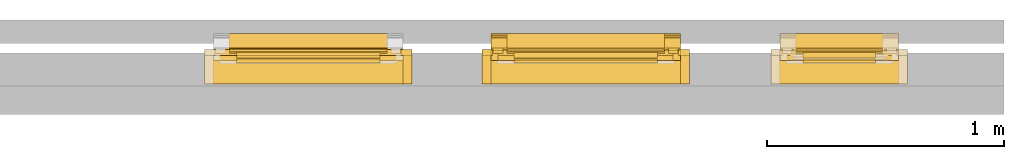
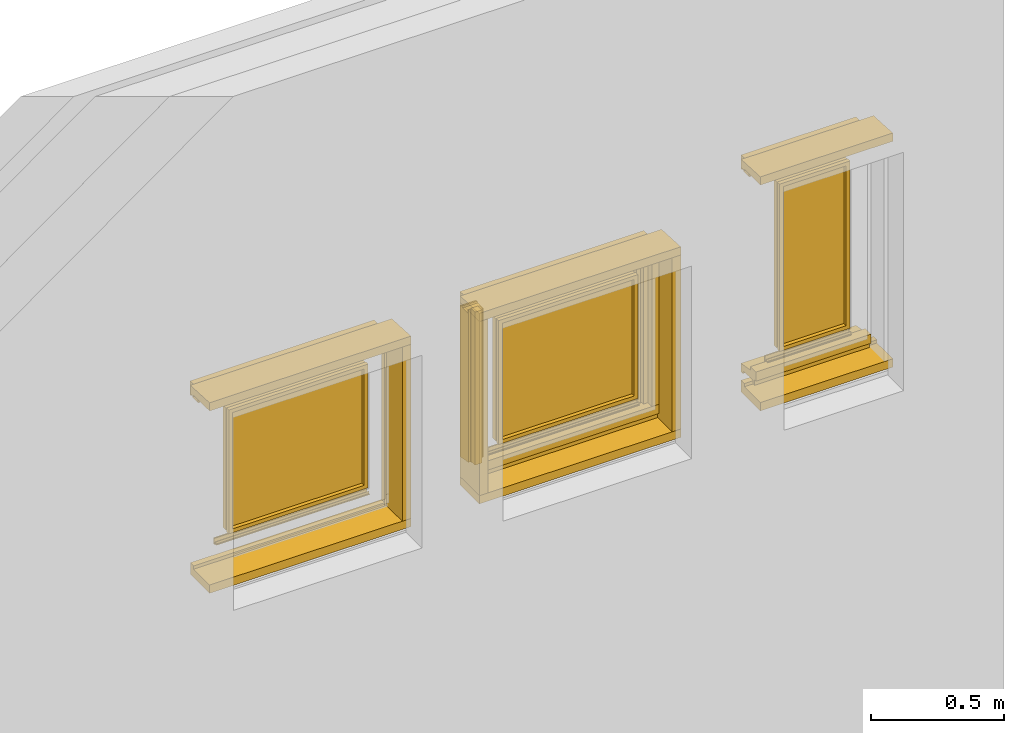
# One storey, part 3 of 4: 25 windows.
"""IFC2X3 building model written with IfcOpenShell, lengths in millimetres."""

from ifc_helpers import new_model, entity, si_unit, converted_unit, derived_unit, direction, frame, frame_2d, origin, place, context, subcontext, project, spatial, polyline, rectangle, outline, extrude, faceted_brep, source, transform, mapped, material, type_object, type_shapes, element, save


model = new_model("IFC2X3")

# Units and contexts
model_context = context("Model", 3, precision=0.01, world=origin(), true_north=direction((6.12303176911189e-17, 1.0)))
body_context = subcontext(model_context, "Body", "Model", "MODEL_VIEW")
ifc_project = project(units=[si_unit("LENGTHUNIT", "METRE", prefix="MILLI"), si_unit("AREAUNIT", "SQUARE_METRE"), si_unit("VOLUMEUNIT", "CUBIC_METRE"), converted_unit("PLANEANGLEUNIT", "DEGREE", entity("IfcRatioMeasure", 0.0174532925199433), si_unit("PLANEANGLEUNIT", "RADIAN"), dimensions=[0, 0, 0, 0, 0, 0, 0]), si_unit("MASSUNIT", "GRAM", prefix="KILO"), derived_unit("MASSDENSITYUNIT", [(si_unit("MASSUNIT", "GRAM", prefix="KILO"), 1), (si_unit("LENGTHUNIT", "METRE"), -3)]), si_unit("TIMEUNIT", "SECOND"), si_unit("FREQUENCYUNIT", "HERTZ"), si_unit("THERMODYNAMICTEMPERATUREUNIT", "DEGREE_CELSIUS"), derived_unit("THERMALTRANSMITTANCEUNIT", [(si_unit("MASSUNIT", "GRAM", prefix="KILO"), 1), (si_unit("THERMODYNAMICTEMPERATUREUNIT", "KELVIN"), -1), (si_unit("TIMEUNIT", "SECOND"), -3)]), derived_unit("VOLUMETRICFLOWRATEUNIT", [(si_unit("LENGTHUNIT", "METRE"), 3), (si_unit("TIMEUNIT", "SECOND"), -1)]), si_unit("ELECTRICCURRENTUNIT", "AMPERE"), si_unit("ELECTRICVOLTAGEUNIT", "VOLT"), si_unit("POWERUNIT", "WATT"), si_unit("FORCEUNIT", "NEWTON", prefix="KILO"), si_unit("ILLUMINANCEUNIT", "LUX"), si_unit("LUMINOUSFLUXUNIT", "LUMEN"), si_unit("LUMINOUSINTENSITYUNIT", "CANDELA"), derived_unit("USERDEFINED", [(si_unit("MASSUNIT", "GRAM", prefix="KILO"), -1), (si_unit("LENGTHUNIT", "METRE"), -2), (si_unit("TIMEUNIT", "SECOND"), 3), (si_unit("LUMINOUSFLUXUNIT", "LUMEN"), 1)]), derived_unit("LINEARVELOCITYUNIT", [(si_unit("LENGTHUNIT", "METRE"), 1), (si_unit("TIMEUNIT", "SECOND"), -1)]), si_unit("PRESSUREUNIT", "PASCAL"), derived_unit("USERDEFINED", [(si_unit("LENGTHUNIT", "METRE"), -2), (si_unit("MASSUNIT", "GRAM", prefix="KILO"), 1), (si_unit("TIMEUNIT", "SECOND"), -2)])], contexts=[model_context])

# Site, building, storey
site_placement = place(None, origin())
site = spatial("IfcSite", under=ifc_project, at=site_placement, Name="Default", CompositionType="ELEMENT")
building_placement = place(site_placement, origin())
building = spatial("IfcBuilding", under=site, at=building_placement, CompositionType="ELEMENT")
storey_placement = place(building_placement, origin())
storey = spatial("IfcBuildingStorey", under=building, at=storey_placement, Name="Level 1", CompositionType="ELEMENT", Elevation=0.0)

# Windows
ifc_material_1 = material(Name="NLRS_i3_meranti_geschilderd_RAL7006")
window_style_1 = type_object("IfcWindowStyle", Name="bis-67x114", ConstructionType="NOTDEFINED", OperationType="NOTDEFINED", ParameterTakesPrecedence=False, Sizeable=False, material=ifc_material_1)
shared_shape_1 = source(origin(), body_context, "Body", "SweptSolid", [
    extrude(outline(polyline([(-13.0250000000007, -65.275), (25.2750000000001, -65.275), (25.2750000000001, -50.2750000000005), (10.2750000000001, -44.9749999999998), (10.2750000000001, 18.725), (25.2750000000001, 18.725), (25.2750000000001, 38.725), (0.275000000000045, 38.725), (0.275000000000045, 48.725), (-41.725, 48.725), (-41.7249999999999, 6.72500000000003), (-25.7249999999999, 6.72500000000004), (-13.0250000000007, -65.275)])), frame((-400.0, 65.275, 25.2750000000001), z_axis=(1.0, 0.0, 0.0), x_axis=(0.0, 0.0, -1.0)), (0.0, 0.0, 1.0), 800.0),
])
type_shapes(window_style_1, [shared_shape_1])
window_1_placement = place(storey_placement, frame((1720.90306251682, 5914.39645578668, 1685.12752334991), z_axis=(0.0, 0.0, 1.0), x_axis=(-1.0, 0.0, 0.0)))
element("IfcWindow", 1, at=window_1_placement, inside=storey, type_object=window_style_1, material=ifc_material_1, Name="NLRS_30_WIN_onderdorpel_sh_gen_TOBA-JM:bis-67x114", ObjectType="NLRS_30_WIN_onderdorpel_sh_gen_TOBA-JM:bis-67x114", OverallHeight=67.0, OverallWidth=800.0, context=body_context, shape_type="MappedRepresentation", body=[
    mapped(shared_shape_1, transform((0.0, 0.0, 0.0), scale=1.0)),
])
window_style_2 = type_object("IfcWindowStyle", Name="dv-bis67x114", ConstructionType="NOTDEFINED", OperationType="NOTDEFINED", ParameterTakesPrecedence=False, Sizeable=False, material=ifc_material_1)
shared_shape_2 = source(origin(), body_context, "Body", "Brep", [
    faceted_brep([(50.0, 84.0, 750.0), (50.0, 62.0, 750.0), (50.0, 62.0, 733.0), (50.0, 62.0, 49.2361111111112), (50.0, 72.0, 51.0), (50.0, 72.0, 67.0), (50.0, 84.0, 67.0), (67.0, 62.0, 733.0), (67.0, 62.0, 49.2361111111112), (67.0, 20.0, 733.0), (67.0, 17.0, 739.0), (67.0, 10.0, 739.0), (67.0, 7.0, 733.0), (67.0, 0.0, 733.0), (67.0, 0.0, 38.3000000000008), (0.0, 0.0, 733.0), (0.0, 0.0, 38.3000000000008), (0.0, 62.0, 750.0), (0.0, 65.0, 750.0), (0.0, 65.0, 49.7652777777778), (0.0, 7.0, 733.0), (0.0, 10.0, 739.0), (0.0, 17.0, 739.0), (0.0, 20.0, 733.0), (0.0, 62.0, 733.0), (9.0, 65.0, 750.0), (9.0, 65.0, 49.7652777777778), (9.0, 84.0, 750.0), (9.0, 84.0, 67.0), (9.0, 72.0, 67.0), (9.0, 72.0, 51.0), (30.0, 84.0, 750.0), (30.0, 84.0, 770.0), (0.0, 84.0, 770.0), (0.0, 84.0, 67.0), (0.0, 114.0, 770.0), (0.0, 114.0, 67.0), (30.0, 114.0, 770.0), (30.0, 114.0, 67.0), (30.0, 84.0, 67.0)], [[[0, 1, 2, 3, 4, 5, 6]], [[2, 7, 8, 3]], [[7, 9, 10, 11, 12, 13, 14, 8]], [[13, 15, 16, 14]], [[17, 18, 19, 16, 15, 20, 21, 22, 23, 24]], [[18, 25, 26, 19]], [[25, 27, 28, 29, 30, 26]], [[27, 31, 32, 33, 34, 28]], [[33, 35, 36, 34]], [[35, 37, 38, 36]], [[30, 4, 3, 8, 14, 16, 19, 26]], [[4, 30, 29, 5]], [[5, 29, 28, 34, 36, 38, 39, 6]], [[31, 0, 6, 39]], [[37, 32, 31, 39, 38]], [[35, 33, 32, 37]], [[17, 1, 0, 31, 27, 25, 18]], [[1, 17, 24, 2]], [[23, 9, 7, 2, 24]], [[9, 23, 22, 10]], [[10, 22, 21, 11]], [[11, 21, 20, 12]], [[12, 20, 15, 13]]]),
])
type_shapes(window_style_2, [shared_shape_2])
window_2_placement = place(storey_placement, frame((2120.90306251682, 5914.39645578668, 1685.12752334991), z_axis=(0.0, 0.0, 1.0), x_axis=(-1.0, 0.0, 0.0)))
element("IfcWindow", 2, at=window_2_placement, inside=storey, type_object=window_style_2, material=ifc_material_1, Name="NLRS_30_WIN_zijstijl_sh_gen_TOBA-JM:dv-bis67x114", ObjectType="NLRS_30_WIN_zijstijl_sh_gen_TOBA-JM:dv-bis67x114", OverallHeight=761.699999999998, OverallWidth=67.0000000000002, context=body_context, shape_type="MappedRepresentation", body=[
    mapped(shared_shape_2, transform((0.0, 0.0, 0.0), scale=1.0)),
])
window_style_3 = type_object("IfcWindowStyle", Name="dv-bis67x114", ConstructionType="NOTDEFINED", OperationType="NOTDEFINED", ParameterTakesPrecedence=False, Sizeable=False, material=ifc_material_1)
shared_shape_3 = source(origin(), body_context, "Body", "Brep", [
    faceted_brep([(50.0, -84.0, 750.0), (50.0, -84.0, 67.0), (50.0, -72.0, 67.0), (50.0, -72.0, 51.0), (50.0, -62.0, 49.2361111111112), (50.0, -62.0, 733.0), (50.0, -62.0, 750.0), (67.0, -62.0, 49.2361111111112), (67.0, -62.0, 733.0), (67.0, 0.0, 38.3000000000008), (67.0, 0.0, 733.0), (67.0, -7.0, 733.0), (67.0, -10.0, 739.0), (67.0, -17.0, 739.0), (67.0, -20.0, 733.0), (0.0, 0.0, 38.3000000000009), (0.0, 0.0, 733.0), (0.0, -62.0, 750.0), (0.0, -62.0, 733.0), (0.0, -20.0, 733.0), (0.0, -17.0, 739.0), (0.0, -10.0, 739.0), (0.0, -7.0, 733.0), (0.0, -65.0, 49.7652777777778), (0.0, -65.0, 750.0), (9.0, -65.0, 49.7652777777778), (9.0, -65.0, 750.0), (9.0, -72.0, 51.0), (9.0, -72.0, 67.0), (9.0, -84.0, 67.0), (9.0, -84.0, 750.0), (0.0, -84.0, 67.0), (0.0, -84.0, 770.0), (30.0, -84.0, 770.0), (30.0, -84.0, 750.0), (0.0, -114.0, 67.0), (0.0, -114.0, 770.0), (30.0, -114.0, 67.0), (30.0, -114.0, 770.0), (30.0, -84.0, 67.0)], [[[0, 1, 2, 3, 4, 5, 6]], [[5, 4, 7, 8]], [[8, 7, 9, 10, 11, 12, 13, 14]], [[10, 9, 15, 16]], [[17, 18, 19, 20, 21, 22, 16, 15, 23, 24]], [[24, 23, 25, 26]], [[26, 25, 27, 28, 29, 30]], [[30, 29, 31, 32, 33, 34]], [[32, 31, 35, 36]], [[36, 35, 37, 38]], [[27, 25, 23, 15, 9, 7, 4, 3]], [[3, 2, 28, 27]], [[2, 1, 39, 37, 35, 31, 29, 28]], [[34, 39, 1, 0]], [[38, 37, 39, 34, 33]], [[36, 38, 33, 32]], [[17, 24, 26, 30, 34, 0, 6]], [[6, 5, 18, 17]], [[19, 18, 5, 8, 14]], [[14, 13, 20, 19]], [[13, 12, 21, 20]], [[12, 11, 22, 21]], [[11, 10, 16, 22]]]),
])
type_shapes(window_style_3, [shared_shape_3])
window_3_placement = place(storey_placement, frame((1320.90306251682, 5914.39645578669, 1685.1275233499)))
element("IfcWindow", 3, at=window_3_placement, inside=storey, type_object=window_style_3, material=ifc_material_1, Name="NLRS_30_WIN_zijstijl_sh_gen_TOBA-JM:dv-bis67x114", ObjectType="NLRS_30_WIN_zijstijl_sh_gen_TOBA-JM:dv-bis67x114", OverallHeight=761.699999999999, OverallWidth=67.0000000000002, context=body_context, shape_type="MappedRepresentation", body=[
    mapped(shared_shape_3, transform((0.0, 0.0, 0.0), scale=1.0)),
])
ifc_material_2 = material(Name="NLRS_i3_hout_vuren_generiek")
window_style_4 = type_object("IfcWindowStyle", Name="53x145", ConstructionType="NOTDEFINED", OperationType="NOTDEFINED", ParameterTakesPrecedence=False, Sizeable=False, material=ifc_material_2)
shared_shape_4 = source(origin(), body_context, "Body", "SweptSolid", [
    extrude(outline(polyline([(7.66666666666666, 31.6666666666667), (22.6666666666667, 31.6666666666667), (22.6666666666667, 56.6666666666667), (-30.3333333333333, 56.6666666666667), (-30.3333333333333, -88.3333333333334), (7.66666666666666, -88.3333333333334), (7.66666666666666, 31.6666666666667)])), frame((-438.0, 56.6666666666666, -7.66666666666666), z_axis=(1.0, 0.0, 0.0), x_axis=(0.0, 0.0, 1.0)), (0.0, 0.0, 1.0), 875.99999999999),
])
type_shapes(window_style_4, [shared_shape_4])
for number, where, z_axis, x_axis, name in (
    (4, (547.832854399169, 5846.39645578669, 1685.12752334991), (0.0, 0.0, 1.0), (-1.0, 0.0, 0.0), "NLRS_30_WIN_spouwlat-onderdorpel_sh_gen_TOBA-JM:53x145"),
    (5, (1720.90306251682, 5846.39645578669, 1685.12752334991), (0.0, 0.0, 1.0), (-1.0, 0.0, 0.0), "NLRS_30_WIN_spouwlat-onderdorpel_sh_gen_TOBA-JM:53x145"),
):
    element("IfcWindow", number, at=place(storey_placement, frame(where, z_axis=z_axis, x_axis=x_axis)), inside=storey, type_object=window_style_4, material=ifc_material_2, Name=name, ObjectType="NLRS_30_WIN_spouwlat-onderdorpel_sh_gen_TOBA-JM:53x145", OverallHeight=53.0, OverallWidth=875.99999999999, context=body_context, shape_type="MappedRepresentation", body=[
        mapped(shared_shape_4, transform((0.0, 0.0, 0.0), scale=1.0)),
    ])
window_style_5 = type_object("IfcWindowStyle", Name="ok-bk-recht-45x145", ConstructionType="NOTDEFINED", OperationType="NOTDEFINED", ParameterTakesPrecedence=False, Sizeable=False, material=ifc_material_2)
shared_shape_5 = source(origin(), body_context, "Body", "SweptSolid", [
    extrude(outline(polyline([(-27.6666666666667, -88.3333333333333), (10.3333333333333, -88.3333333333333), (10.3333333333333, 31.6666666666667), (17.3333333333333, 31.6666666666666), (17.3333333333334, 56.6666666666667), (-27.6666666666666, 56.6666666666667), (-27.6666666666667, -88.3333333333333)])), frame((-10.3333333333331, -56.6666666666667, 0.0)), (0.0, 0.0, 1.0), 800.000000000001),
])
type_shapes(window_style_5, [shared_shape_5])
window_4_placement = place(storey_placement, frame((1320.90306251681, 5846.3964557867, 1685.1275233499)))
element("IfcWindow", 6, at=window_4_placement, inside=storey, type_object=window_style_5, material=ifc_material_2, Name="NLRS_30_WIN_spouwlat-zijstijll_sh_gen_TOBA-JM:ok-bk-recht-45x145", ObjectType="NLRS_30_WIN_spouwlat-zijstijll_sh_gen_TOBA-JM:ok-bk-recht-45x145", OverallHeight=800.000000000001, OverallWidth=105.0, context=body_context, shape_type="MappedRepresentation", body=[
    mapped(shared_shape_5, transform((0.0, 0.0, 0.0), scale=1.0)),
])
window_style_6 = type_object("IfcWindowStyle", Name="dv-bis-67x114", ConstructionType="NOTDEFINED", OperationType="NOTDEFINED", ParameterTakesPrecedence=False, Sizeable=False, material=ifc_material_1)
shared_shape_6 = source(origin(), body_context, "Body", "SweptSolid", [
    extrude(outline(polyline([(28.4727330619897, -12.0), (35.4727330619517, -12.0), (31.9090040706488, 56.0), (-31.5272669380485, 56.0), (-31.5272669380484, 49.0), (-25.5272669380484, 46.0), (-25.5272669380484, 39.0), (-31.5272669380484, 36.0), (-31.5272669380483, -6.0), (-14.5272669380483, -6.0), (-14.5272669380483, -28.0), (5.47273306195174, -28.0), (5.47273306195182, -58.0), (35.4727330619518, -58.0), (35.4727330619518, -37.0), (28.4727330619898, -37.0), (28.4727330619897, -12.0)])), frame((-400.0, 56.0, -35.4727330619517), z_axis=(1.0, 0.0, 0.0), x_axis=(0.0, 0.0, 1.0)), (0.0, 0.0, 1.0), 800.0),
])
type_shapes(window_style_6, [shared_shape_6])
for number, where, z_axis, x_axis in (
    (7, (547.832854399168, 5914.39645578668, 2485.1275233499), (0.0, 0.0, 1.0), (-1.0, 0.0, 0.0)),
    (8, (1720.90306251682, 5914.39645578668, 2485.1275233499), (0.0, 0.0, 1.0), (-1.0, 0.0, 0.0)),
):
    element("IfcWindow", number, at=place(storey_placement, frame(where, z_axis=z_axis, x_axis=x_axis)), inside=storey, type_object=window_style_6, material=ifc_material_1, Name="NLRS_30_WIN_bovendorpel_sh_gen_TOBA-JM:dv-bis-67x114", ObjectType="NLRS_30_WIN_bovendorpel_sh_gen_TOBA-JM:dv-bis-67x114", OverallHeight=67.0, OverallWidth=800.0, context=body_context, shape_type="MappedRepresentation", body=[
        mapped(shared_shape_6, transform((0.0, 0.0, 0.0), scale=1.0)),
    ])
window_style_7 = type_object("IfcWindowStyle", Name="ok-bk-recht-45x145", ConstructionType="NOTDEFINED", OperationType="NOTDEFINED", ParameterTakesPrecedence=False, Sizeable=False, material=ifc_material_2)
shared_shape_7 = source(origin(), body_context, "Body", "SweptSolid", [
    extrude(outline(polyline([(-88.3333333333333, -27.6666666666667), (56.6666666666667, -27.6666666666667), (56.6666666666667, 17.3333333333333), (31.6666666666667, 17.3333333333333), (31.6666666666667, 10.3333333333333), (-88.3333333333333, 10.3333333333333), (-88.3333333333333, -27.6666666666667)])), frame((-10.3333333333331, 56.6666666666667, 0.0), z_axis=(0.0, 0.0, 1.0), x_axis=(0.0, -1.0, 0.0)), (0.0, 0.0, 1.0), 799.999999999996),
])
type_shapes(window_style_7, [shared_shape_7])
for number, where, z_axis, x_axis in (
    (9, (947.832854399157, 5846.39645578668, 1685.12752334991), (0.0, 0.0, 1.0), (-1.0, 0.0, 0.0)),
    (10, (2120.90306251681, 5846.39645578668, 1685.12752334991), (0.0, 0.0, 1.0), (-1.0, 0.0, 0.0)),
):
    element("IfcWindow", number, at=place(storey_placement, frame(where, z_axis=z_axis, x_axis=x_axis)), inside=storey, type_object=window_style_7, material=ifc_material_2, Name="NLRS_30_WIN_spouwlat-zijstijll_sh_gen_TOBA-JM:ok-bk-recht-45x145", ObjectType="NLRS_30_WIN_spouwlat-zijstijll_sh_gen_TOBA-JM:ok-bk-recht-45x145", OverallHeight=799.999999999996, OverallWidth=105.0, context=body_context, shape_type="MappedRepresentation", body=[
        mapped(shared_shape_7, transform((0.0, 0.0, 0.0), scale=1.0)),
    ])
ifc_material_3 = material(Name="NLRS_i3_meranti_draaiende_delen_geschilderd_creme_RAL7006")
window_style_8 = type_object("IfcWindowStyle", Name="17x17", ConstructionType="NOTDEFINED", OperationType="NOTDEFINED", ParameterTakesPrecedence=False, Sizeable=False, material=ifc_material_3)
shared_shape_8 = source(origin(), body_context, "Body", "SweptSolid", [
    extrude(outline(polyline([(-284.500000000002, -303.0), (284.500000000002, -303.0), (284.500000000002, 303.0), (-284.500000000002, 303.0), (-284.500000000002, -303.0)]), holes=[polyline([(267.500000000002, -286.0), (-267.500000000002, -286.0), (-267.500000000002, 286.0), (267.500000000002, 286.0), (267.500000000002, -286.0)])]), frame((0.0, 45.0, 351.500000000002), z_axis=(0.0, 1.0, 0.0), x_axis=(0.0, 0.0, -1.0)), (0.0, 0.0, 1.0), 17.0),
])
type_shapes(window_style_8, [shared_shape_8])
for number, where, z_axis, x_axis, name in (
    (11, (547.832854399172, 5852.39645578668, 1752.1275233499), (0.0, 0.0, 1.0), (-1.0, 0.0, 0.0), "NLRS_30_WIN_glaslat-raam_sh_gen_TOBA-JM:17x17"),
    (12, (1720.90306251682, 5852.39645578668, 1752.1275233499), (0.0, 0.0, 1.0), (-1.0, 0.0, 0.0), "NLRS_30_WIN_glaslat-raam_sh_gen_TOBA-JM:17x17"),
):
    element("IfcWindow", number, at=place(storey_placement, frame(where, z_axis=z_axis, x_axis=x_axis)), inside=storey, type_object=window_style_8, material=ifc_material_3, Name=name, ObjectType="NLRS_30_WIN_glaslat-raam_sh_gen_TOBA-JM:17x17", OverallHeight=665.999999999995, OverallWidth=666.000000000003, context=body_context, shape_type="MappedRepresentation", body=[
        mapped(shared_shape_8, transform((0.0, 0.0, 0.0), scale=1.0)),
    ])
ifc_material_4 = material(Name="NLRS_h4_aluminum_geanodizeerd_RAL7006")
window_style_9 = type_object("IfcWindowStyle", Name="aanslagprofiel", ConstructionType="NOTDEFINED", OperationType="NOTDEFINED", ParameterTakesPrecedence=False, Sizeable=False, material=ifc_material_4)
shared_shape_9 = source(origin(), body_context, "Body", "SweptSolid", [
    extrude(outline(polyline([(-7.23833465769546, -13.3571428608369), (-5.23833465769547, -13.3571428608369), (-5.23833465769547, -9.35714286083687), (-0.765924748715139, -9.35714286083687), (-0.765924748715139, -12.8571428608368), (2.73407525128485, -12.8571428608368), (2.73407525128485, -11.3571428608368), (0.734075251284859, -11.3571428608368), (0.734075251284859, -6.85714286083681), (2.73407525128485, -6.85714286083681), (2.73407525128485, -7.85714286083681), (3.73407525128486, -7.85714286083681), (3.73407525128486, -6.85714286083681), (15.2340752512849, -6.85714286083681), (15.2340752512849, -4.85714286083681), (9.63407525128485, -4.85714286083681), (9.63407525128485, 5.14285713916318), (7.63407525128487, 5.14285713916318), (7.63407525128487, -4.85714286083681), (-0.765924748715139, -4.85714286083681), (-0.765924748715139, -7.85714286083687), (-5.2383346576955, -7.85714286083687), (-5.23833465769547, 11.0), (-3.73833465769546, 11.0), (-3.73833465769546, 13.0), (-4.73833465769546, 13.0), (-4.73833465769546, 12.1428571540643), (-6.23833465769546, 12.5714286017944), (-6.23833465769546, 14.5714286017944), (-4.73833465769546, 15.0), (-4.73833465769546, 14.1428571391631), (-3.73833465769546, 14.1428571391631), (-3.73833465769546, 16.1428571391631), (-7.23833465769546, 15.1428571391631), (-7.23833465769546, -13.3571428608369)])), frame((-333.0, 7.23833465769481, 7.85714286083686), z_axis=(1.0, 0.0, 0.0), x_axis=(0.0, 1.0, 0.0)), (0.0, 0.0, 1.0), 666.000000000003),
])
type_shapes(window_style_9, [shared_shape_9])
for number, where, z_axis, x_axis, name in (
    (13, (547.832854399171, 5852.39645578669, 1752.1275233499), (0.0, 0.0, 1.0), (-1.0, 0.0, 0.0), "NLRS_30_WIN_aanslagprofiel_sh_gen_TOBA-JM:aanslagprofiel"),
    (14, (1720.90306251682, 5852.39645578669, 1752.12752334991), (0.0, 0.0, 1.0), (-1.0, 0.0, 0.0), "NLRS_30_WIN_aanslagprofiel_sh_gen_TOBA-JM:aanslagprofiel"),
):
    element("IfcWindow", number, at=place(storey_placement, frame(where, z_axis=z_axis, x_axis=x_axis)), inside=storey, type_object=window_style_9, material=ifc_material_4, Name=name, ObjectType="NLRS_30_WIN_aanslagprofiel_sh_gen_TOBA-JM:aanslagprofiel", OverallHeight=671.499999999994, OverallWidth=666.000000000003, context=body_context, shape_type="MappedRepresentation", body=[
        mapped(shared_shape_9, transform((0.0, 0.0, 0.0), scale=1.0)),
    ])
ifc_material_5 = material(Name="NLRS_o2_glas_mat")
window_style_10 = type_object("IfcWindowStyle", Name="isolerend-raam", ConstructionType="NOTDEFINED", OperationType="NOTDEFINED", ParameterTakesPrecedence=False, Sizeable=False, material=ifc_material_5)
shared_shape_10 = source(origin(), body_context, "Body", "SweptSolid", [
    extrude(rectangle(XDim=23.0, YDim=606.000000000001, at=frame_2d((1.77635683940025e-15, 0.0), x_axis=(1.0, 0.0))), frame((0.0, 29.4999999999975, 71.0), z_axis=(0.0, 0.0, 1.0), x_axis=(0.0, -1.0, 0.0)), (0.0, 0.0, 1.0), 561.000000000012),
])
type_shapes(window_style_10, [shared_shape_10])
for number, where, z_axis, x_axis, name in (
    (15, (547.832854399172, 5852.39645578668, 1752.1275233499), (0.0, 0.0, 1.0), (-1.0, 0.0, 0.0), "NLRS_30_WIN_glas-isolerend-raam_sh_gen_TOBA-JM:isolerend-raam"),
    (16, (1720.90306251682, 5852.39645578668, 1752.1275233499), (0.0, 0.0, 1.0), (-1.0, 0.0, 0.0), "NLRS_30_WIN_glas-isolerend-raam_sh_gen_TOBA-JM:isolerend-raam"),
):
    element("IfcWindow", number, at=place(storey_placement, frame(where, z_axis=z_axis, x_axis=x_axis)), inside=storey, type_object=window_style_10, material=ifc_material_5, Name=name, ObjectType="NLRS_30_WIN_glas-isolerend-raam_sh_gen_TOBA-JM:isolerend-raam", OverallHeight=665.999999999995, OverallWidth=666.000000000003, context=body_context, shape_type="MappedRepresentation", body=[
        mapped(shared_shape_10, transform((0.0, 0.0, 0.0), scale=1.0)),
    ])
window_style_11 = type_object("IfcWindowStyle", Name="43x145", ConstructionType="NOTDEFINED", OperationType="NOTDEFINED", ParameterTakesPrecedence=False, Sizeable=False, material=ifc_material_2)
shared_shape_11 = source(origin(), body_context, "Body", "SweptSolid", [
    extrude(outline(polyline([(-9.00212609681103, -88.3333333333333), (28.8038161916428, -88.3333333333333), (21.2046881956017, 56.6666666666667), (-16.0021260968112, 56.6666666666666), (-16.0021260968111, 31.6666666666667), (-9.00212609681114, 31.6666666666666), (-9.00212609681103, -88.3333333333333)])), frame((-438.0, 56.6666666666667, 9.00212609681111), z_axis=(1.0, 0.0, 0.0), x_axis=(0.0, 0.0, 1.0)), (0.0, 0.0, 1.0), 875.999999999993),
])
type_shapes(window_style_11, [shared_shape_11])
for number, where, z_axis, x_axis, name in (
    (17, (547.832854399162, 5846.39645578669, 2485.1275233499), (0.0, 0.0, 1.0), (-1.0, 0.0, 0.0), "NLRS_30_WIN_spouwlat_bovendorpel-zonder-bovenrek_sh_gen_TOBA-JM:43x145"),
    (18, (1720.90306251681, 5846.39645578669, 2485.1275233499), (0.0, 0.0, 1.0), (-1.0, 0.0, 0.0), "NLRS_30_WIN_spouwlat_bovendorpel-zonder-bovenrek_sh_gen_TOBA-JM:43x145"),
):
    element("IfcWindow", number, at=place(storey_placement, frame(where, z_axis=z_axis, x_axis=x_axis)), inside=storey, type_object=window_style_11, material=ifc_material_2, Name=name, ObjectType="NLRS_30_WIN_spouwlat_bovendorpel-zonder-bovenrek_sh_gen_TOBA-JM:43x145", OverallHeight=44.8059422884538, OverallWidth=875.999999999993, context=body_context, shape_type="MappedRepresentation", body=[
        mapped(shared_shape_11, transform((0.0, 0.0, 0.0), scale=1.0)),
    ])
window_style_12 = type_object("IfcWindowStyle", Name="bis-67x114", ConstructionType="NOTDEFINED", OperationType="NOTDEFINED", ParameterTakesPrecedence=False, Sizeable=False, material=ifc_material_1)
shared_shape_12 = source(origin(), body_context, "Body", "SweptSolid", [
    extrude(outline(polyline([(-13.0250000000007, -65.275), (25.2750000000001, -65.275), (25.2750000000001, -50.2750000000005), (10.2750000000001, -44.9749999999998), (10.2750000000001, 18.725), (25.2750000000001, 18.725), (25.2750000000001, 38.725), (0.275000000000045, 38.725), (0.275000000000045, 48.725), (-41.725, 48.725), (-41.7249999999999, 6.72500000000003), (-25.7249999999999, 6.72500000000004), (-13.0250000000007, -65.275)])), frame((-250.0, 65.275, 25.2750000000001), z_axis=(1.0, 0.0, 0.0), x_axis=(0.0, 0.0, -1.0)), (0.0, 0.0, 1.0), 499.999999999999),
])
type_shapes(window_style_12, [shared_shape_12])
window_5_placement = place(storey_placement, frame((2792.97327063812, 5914.39645578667, 1685.12752334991), z_axis=(0.0, 0.0, 1.0), x_axis=(-1.0, 0.0, 0.0)))
element("IfcWindow", 19, at=window_5_placement, inside=storey, type_object=window_style_12, material=ifc_material_1, Name="NLRS_30_WIN_onderdorpel_sh_gen_TOBA-JM:bis-67x114", ObjectType="NLRS_30_WIN_onderdorpel_sh_gen_TOBA-JM:bis-67x114", OverallHeight=67.0, OverallWidth=499.999999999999, context=body_context, shape_type="MappedRepresentation", body=[
    mapped(shared_shape_12, transform((0.0, 0.0, 0.0), scale=1.0)),
])
window_style_13 = type_object("IfcWindowStyle", Name="53x145", ConstructionType="NOTDEFINED", OperationType="NOTDEFINED", ParameterTakesPrecedence=False, Sizeable=False, material=ifc_material_2)
shared_shape_13 = source(origin(), body_context, "Body", "SweptSolid", [
    extrude(outline(polyline([(7.66666666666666, 31.6666666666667), (22.6666666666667, 31.6666666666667), (22.6666666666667, 56.6666666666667), (-30.3333333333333, 56.6666666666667), (-30.3333333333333, -88.3333333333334), (7.66666666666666, -88.3333333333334), (7.66666666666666, 31.6666666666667)])), frame((-288.0, 56.6666666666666, -7.66666666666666), z_axis=(1.0, 0.0, 0.0), x_axis=(0.0, 0.0, 1.0)), (0.0, 0.0, 1.0), 575.99999999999),
])
type_shapes(window_style_13, [shared_shape_13])
window_6_placement = place(storey_placement, frame((2792.97327063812, 5846.39645578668, 1685.12752334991), z_axis=(0.0, 0.0, 1.0), x_axis=(-1.0, 0.0, 0.0)))
element("IfcWindow", 20, at=window_6_placement, inside=storey, type_object=window_style_13, material=ifc_material_2, Name="NLRS_30_WIN_spouwlat-onderdorpel_sh_gen_TOBA-JM:53x145", ObjectType="NLRS_30_WIN_spouwlat-onderdorpel_sh_gen_TOBA-JM:53x145", OverallHeight=53.0, OverallWidth=575.99999999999, context=body_context, shape_type="MappedRepresentation", body=[
    mapped(shared_shape_13, transform((0.0, 0.0, 0.0), scale=1.0)),
])
window_style_14 = type_object("IfcWindowStyle", Name="dv-bis-67x114", ConstructionType="NOTDEFINED", OperationType="NOTDEFINED", ParameterTakesPrecedence=False, Sizeable=False, material=ifc_material_1)
shared_shape_14 = source(origin(), body_context, "Body", "SweptSolid", [
    extrude(outline(polyline([(28.4727330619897, -12.0), (35.4727330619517, -12.0), (31.9090040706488, 56.0), (-31.5272669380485, 56.0), (-31.5272669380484, 49.0), (-25.5272669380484, 46.0), (-25.5272669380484, 39.0), (-31.5272669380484, 36.0), (-31.5272669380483, -6.0), (-14.5272669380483, -6.0), (-14.5272669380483, -28.0), (5.47273306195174, -28.0), (5.47273306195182, -58.0), (35.4727330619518, -58.0), (35.4727330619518, -37.0), (28.4727330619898, -37.0), (28.4727330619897, -12.0)])), frame((-250.0, 56.0, -35.4727330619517), z_axis=(1.0, 0.0, 0.0), x_axis=(0.0, 0.0, 1.0)), (0.0, 0.0, 1.0), 499.999999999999),
])
type_shapes(window_style_14, [shared_shape_14])
window_7_placement = place(storey_placement, frame((2792.97327063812, 5914.39645578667, 2685.1275233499), z_axis=(0.0, 0.0, 1.0), x_axis=(-1.0, 0.0, 0.0)))
element("IfcWindow", 21, at=window_7_placement, inside=storey, type_object=window_style_14, material=ifc_material_1, Name="NLRS_30_WIN_bovendorpel_sh_gen_TOBA-JM:dv-bis-67x114", ObjectType="NLRS_30_WIN_bovendorpel_sh_gen_TOBA-JM:dv-bis-67x114", OverallHeight=67.0, OverallWidth=499.999999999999, context=body_context, shape_type="MappedRepresentation", body=[
    mapped(shared_shape_14, transform((0.0, 0.0, 0.0), scale=1.0)),
])
window_style_15 = type_object("IfcWindowStyle", Name="17x17", ConstructionType="NOTDEFINED", OperationType="NOTDEFINED", ParameterTakesPrecedence=False, Sizeable=False, material=ifc_material_3)
shared_shape_15 = source(origin(), body_context, "Body", "SweptSolid", [
    extrude(outline(polyline([(-384.500000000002, -153.0), (384.500000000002, -153.0), (384.500000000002, 153.0), (-384.500000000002, 153.0), (-384.500000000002, -153.0)]), holes=[polyline([(367.500000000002, -136.0), (-367.500000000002, -136.0), (-367.500000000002, 136.0), (367.500000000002, 136.0), (367.500000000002, -136.0)])]), frame((0.0, 45.0, 451.500000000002), z_axis=(0.0, 1.0, 0.0), x_axis=(0.0, 0.0, -1.0)), (0.0, 0.0, 1.0), 17.0),
])
type_shapes(window_style_15, [shared_shape_15])
window_8_placement = place(storey_placement, frame((2792.97327063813, 5852.39645578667, 1752.1275233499), z_axis=(0.0, 0.0, 1.0), x_axis=(-1.0, 0.0, 0.0)))
element("IfcWindow", 22, at=window_8_placement, inside=storey, type_object=window_style_15, material=ifc_material_3, Name="NLRS_30_WIN_glaslat-raam_sh_gen_TOBA-JM:17x17", ObjectType="NLRS_30_WIN_glaslat-raam_sh_gen_TOBA-JM:17x17", OverallHeight=865.999999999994, OverallWidth=366.000000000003, context=body_context, shape_type="MappedRepresentation", body=[
    mapped(shared_shape_15, transform((0.0, 0.0, 0.0), scale=1.0)),
])
window_style_16 = type_object("IfcWindowStyle", Name="aanslagprofiel", ConstructionType="NOTDEFINED", OperationType="NOTDEFINED", ParameterTakesPrecedence=False, Sizeable=False, material=ifc_material_4)
shared_shape_16 = source(origin(), body_context, "Body", "SweptSolid", [
    extrude(outline(polyline([(-7.23833465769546, -13.3571428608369), (-5.23833465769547, -13.3571428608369), (-5.23833465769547, -9.35714286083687), (-0.765924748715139, -9.35714286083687), (-0.765924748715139, -12.8571428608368), (2.73407525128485, -12.8571428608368), (2.73407525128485, -11.3571428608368), (0.734075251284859, -11.3571428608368), (0.734075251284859, -6.85714286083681), (2.73407525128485, -6.85714286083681), (2.73407525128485, -7.85714286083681), (3.73407525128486, -7.85714286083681), (3.73407525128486, -6.85714286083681), (15.2340752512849, -6.85714286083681), (15.2340752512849, -4.85714286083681), (9.63407525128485, -4.85714286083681), (9.63407525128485, 5.14285713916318), (7.63407525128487, 5.14285713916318), (7.63407525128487, -4.85714286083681), (-0.765924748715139, -4.85714286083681), (-0.765924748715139, -7.85714286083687), (-5.2383346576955, -7.85714286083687), (-5.23833465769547, 11.0), (-3.73833465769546, 11.0), (-3.73833465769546, 13.0), (-4.73833465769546, 13.0), (-4.73833465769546, 12.1428571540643), (-6.23833465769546, 12.5714286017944), (-6.23833465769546, 14.5714286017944), (-4.73833465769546, 15.0), (-4.73833465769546, 14.1428571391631), (-3.73833465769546, 14.1428571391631), (-3.73833465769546, 16.1428571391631), (-7.23833465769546, 15.1428571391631), (-7.23833465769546, -13.3571428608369)])), frame((-183.0, 7.23833465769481, 7.85714286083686), z_axis=(1.0, 0.0, 0.0), x_axis=(0.0, 1.0, 0.0)), (0.0, 0.0, 1.0), 366.000000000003),
])
type_shapes(window_style_16, [shared_shape_16])
window_9_placement = place(storey_placement, frame((2792.97327063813, 5852.39645578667, 1752.12752334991), z_axis=(0.0, 0.0, 1.0), x_axis=(-1.0, 0.0, 0.0)))
element("IfcWindow", 23, at=window_9_placement, inside=storey, type_object=window_style_16, material=ifc_material_4, Name="NLRS_30_WIN_aanslagprofiel_sh_gen_TOBA-JM:aanslagprofiel", ObjectType="NLRS_30_WIN_aanslagprofiel_sh_gen_TOBA-JM:aanslagprofiel", OverallHeight=871.499999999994, OverallWidth=366.000000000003, context=body_context, shape_type="MappedRepresentation", body=[
    mapped(shared_shape_16, transform((0.0, 0.0, 0.0), scale=1.0)),
])
window_style_17 = type_object("IfcWindowStyle", Name="isolerend-raam", ConstructionType="NOTDEFINED", OperationType="NOTDEFINED", ParameterTakesPrecedence=False, Sizeable=False, material=ifc_material_5)
shared_shape_17 = source(origin(), body_context, "Body", "SweptSolid", [
    extrude(rectangle(XDim=23.0, YDim=306.000000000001, at=frame_2d((1.77635683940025e-15, 0.0), x_axis=(1.0, 0.0))), frame((0.0, 29.4999999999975, 71.0), z_axis=(0.0, 0.0, 1.0), x_axis=(0.0, -1.0, 0.0)), (0.0, 0.0, 1.0), 761.000000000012),
])
type_shapes(window_style_17, [shared_shape_17])
window_10_placement = place(storey_placement, frame((2792.97327063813, 5852.39645578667, 1752.1275233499), z_axis=(0.0, 0.0, 1.0), x_axis=(-1.0, 0.0, 0.0)))
element("IfcWindow", 24, at=window_10_placement, inside=storey, type_object=window_style_17, material=ifc_material_5, Name="NLRS_30_WIN_glas-isolerend-raam_sh_gen_TOBA-JM:isolerend-raam", ObjectType="NLRS_30_WIN_glas-isolerend-raam_sh_gen_TOBA-JM:isolerend-raam", OverallHeight=865.999999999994, OverallWidth=366.000000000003, context=body_context, shape_type="MappedRepresentation", body=[
    mapped(shared_shape_17, transform((0.0, 0.0, 0.0), scale=1.0)),
])
window_style_18 = type_object("IfcWindowStyle", Name="43x145", ConstructionType="NOTDEFINED", OperationType="NOTDEFINED", ParameterTakesPrecedence=False, Sizeable=False, material=ifc_material_2)
shared_shape_18 = source(origin(), body_context, "Body", "SweptSolid", [
    extrude(outline(polyline([(-9.00212609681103, -88.3333333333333), (28.8038161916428, -88.3333333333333), (21.2046881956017, 56.6666666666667), (-16.0021260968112, 56.6666666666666), (-16.0021260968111, 31.6666666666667), (-9.00212609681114, 31.6666666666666), (-9.00212609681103, -88.3333333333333)])), frame((-288.0, 56.6666666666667, 9.00212609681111), z_axis=(1.0, 0.0, 0.0), x_axis=(0.0, 0.0, 1.0)), (0.0, 0.0, 1.0), 575.999999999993),
])
type_shapes(window_style_18, [shared_shape_18])
window_11_placement = place(storey_placement, frame((2792.97327063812, 5846.39645578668, 2685.1275233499), z_axis=(0.0, 0.0, 1.0), x_axis=(-1.0, 0.0, 0.0)))
element("IfcWindow", 25, at=window_11_placement, inside=storey, type_object=window_style_18, material=ifc_material_2, Name="NLRS_30_WIN_spouwlat_bovendorpel-zonder-bovenrek_sh_gen_TOBA-JM:43x145", ObjectType="NLRS_30_WIN_spouwlat_bovendorpel-zonder-bovenrek_sh_gen_TOBA-JM:43x145", OverallHeight=44.8059422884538, OverallWidth=575.999999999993, context=body_context, shape_type="MappedRepresentation", body=[
    mapped(shared_shape_18, transform((0.0, 0.0, 0.0), scale=1.0)),
])

save(model, "model.ifc")
